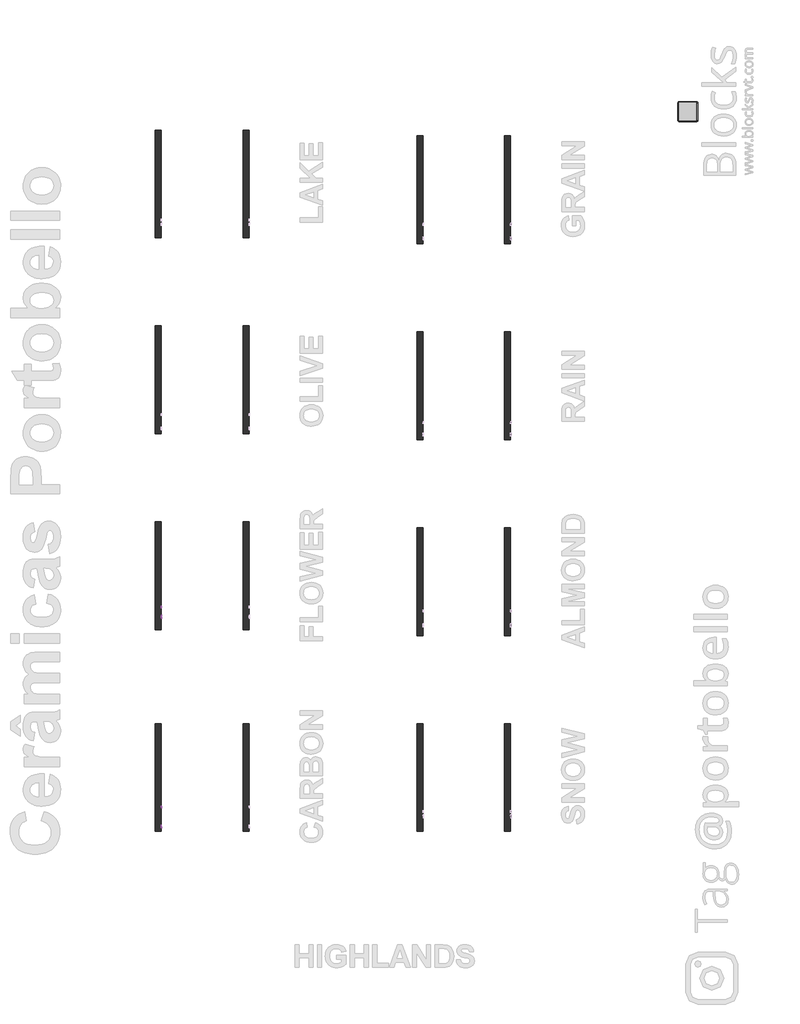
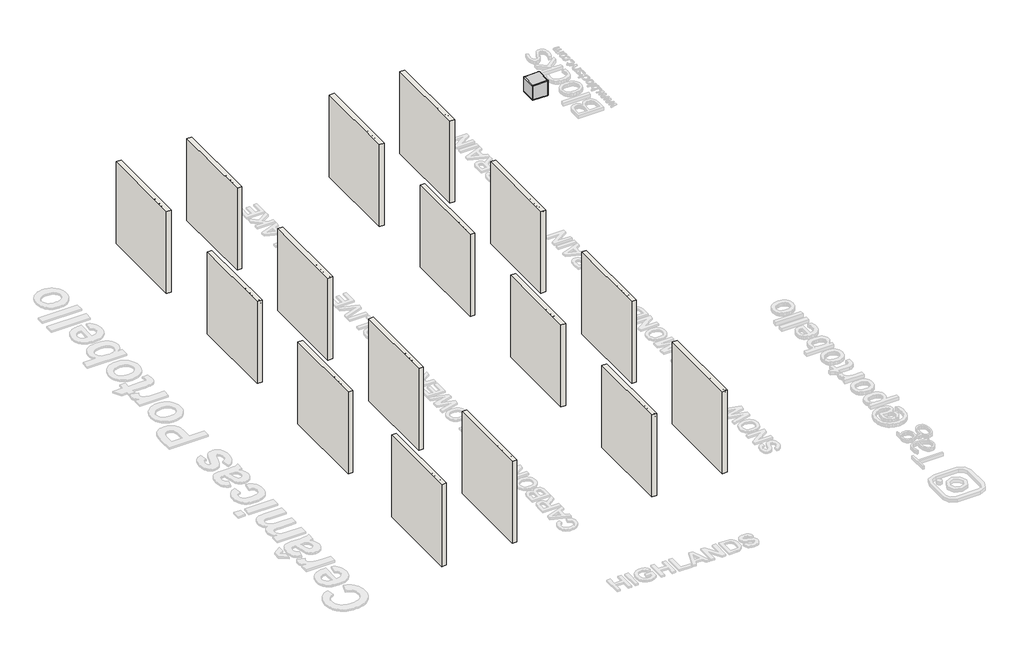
# One storey, part 1 of 10: 16 walls, 4 proxies, 1 furniture element.
"""IFC4 building model written with IfcOpenShell, lengths in millimetres."""

from ifc_helpers import new_model, si_unit, frame, origin, origin_with_axes, place, context, project, spatial, polyline, outline, extrude, transform, mapped, element, save
from components import branco_22256ad2

model = new_model("IFC4")

# Units and contexts
model_context = context("Model", 3, world=origin())
ifc_project = project(units=[si_unit("LENGTHUNIT", "METRE", prefix="MILLI")], contexts=[model_context])

# Site, building, storey
site = spatial("IfcSite", under=ifc_project)
building = spatial("IfcBuilding", under=site)
storey = spatial("IfcBuildingStorey", under=building, Name="PORTOBELLO - SHOWROOM", Elevation=0.0)

# Proxies
placement = place(None, origin())
element("IfcBuildingElementProxy", 1, Name="10mm Arial", ObjectType="10mm Arial", at=placement, inside=storey, context=model_context, shape_type="SweptSolid", body=[
    extrude(outline(polyline([(-4161.6101893, 2518.4745677), (-4161.6101893, 2618.9308778), (-4094.1161059, 2618.9308778), (-4094.1161059, 2606.373839), (-4149.0531505, 2606.373839), (-4149.0531505, 2576.550872), (-4101.9642551, 2576.550872), (-4101.9642551, 2563.9938332), (-4149.0531505, 2563.9938332), (-4149.0531505, 2518.4745677), (-4161.6101893, 2518.4745677)])), frame((-32475.742133, 0.0, 0.0), z_axis=(1.0, 0.0, 0.0), x_axis=(0.0, 1.0, 0.0)), (0.0, 0.0, 1.0), 20.0),
    extrude(outline(polyline([(-32455.742133, -4065.8627687), (-32455.742133, -4078.4198074), (-32475.742133, -4078.4198074), (-32475.742133, -4065.8627687), (-32455.742133, -4065.8627687)])), frame((0.0, 0.0, 2518.4745677), z_axis=(0.0, 0.0, 1.0), x_axis=(1.0, 0.0, 0.0)), (0.0, 0.0, 1.0), 100.4563101),
    extrude(outline(polyline([(-4050.1664702, 2555.360869), (-4047.4502748, 2573.1479635), (-4039.3016886, 2585.64982), (-4029.2339847, 2591.7750552), (-4017.179718, 2593.8168003), (-4003.9880828, 2591.3305311), (-3993.4513293, 2583.8717237), (-3986.5443448, 2572.0289891), (-3984.2420167, 2556.3909386), (-3988.3132441, 2534.0482388), (-4000.1713071, 2521.4053609), (-4017.179718, 2516.9049378), (-4030.5307687, 2519.3820099), (-4041.0552594, 2526.8132262), (-4047.8886675, 2538.9042811), (-4050.1664702, 2555.360869)]), holes=[polyline([(-4037.6094314, 2555.3853945), (-4036.1562975, 2544.0209065), (-4031.7968959, 2535.924437), (-4025.2363337, 2531.0775917), (-4017.179718, 2529.4619766), (-4009.1598905, 2531.0867887), (-4002.611591, 2535.9612252), (-3998.2521893, 2544.1649937), (-3996.7990554, 2555.777802), (-3998.2613864, 2566.8111961), (-4002.6483792, 2574.7973011), (-4009.2058757, 2579.6441464), (-4017.179718, 2581.2597615), (-4025.2363337, 2579.6502778), (-4031.7968959, 2574.8218266), (-4036.1562975, 2566.7437511), (-4037.6094314, 2555.3853945)])]), frame((-32475.742133, 0.0, 0.0), z_axis=(1.0, 0.0, 0.0), x_axis=(0.0, 1.0, 0.0)), (0.0, 0.0, 1.0), 20.0),
    extrude(outline(polyline([(-3957.8771403, 2518.4745677), (-3980.317942, 2592.2471704), (-3967.270394, 2592.2471704), (-3954.5416769, 2549.204977), (-3950.7402296, 2533.8275096), (-3947.6254954, 2548.6408913), (-3937.4964778, 2592.2471704), (-3922.5359433, 2592.2471704), (-3912.4559767, 2548.7635186), (-3909.684599, 2535.3480885), (-3905.7114734, 2549.4992826), (-3892.9582309, 2592.2471704), (-3879.8616319, 2592.2471704), (-3902.4741119, 2518.4745677), (-3917.6553755, 2518.4745677), (-3927.2938838, 2561.7374903), (-3930.089787, 2575.2264968), (-3942.5241984, 2518.4745677), (-3957.8771403, 2518.4745677)])), frame((-32475.742133, 0.0, 0.0), z_axis=(1.0, 0.0, 0.0), x_axis=(0.0, 1.0, 0.0)), (0.0, 0.0, 1.0), 20.0),
    extrude(outline(polyline([(-3819.5780356, 2540.4493855), (-3807.2662515, 2538.8797557), (-3811.7022952, 2529.602998), (-3818.780958, 2522.6684224), (-3828.3428242, 2518.345809), (-3840.2284783, 2516.9049378), (-3854.9621522, 2519.391207), (-3866.299049, 2526.8500144), (-3873.5279302, 2538.7969822), (-3875.9375573, 2554.7477324), (-3873.5034047, 2571.2349771), (-3866.2009471, 2583.5651553), (-3855.0173345, 2591.253889), (-3840.9397168, 2593.8168003), (-3827.3004918, 2591.2600204), (-3816.4019877, 2583.5896808), (-3809.25588, 2571.2840281), (-3806.8738441, 2554.8213088), (-3806.9474205, 2551.4367944), (-3863.3805185, 2551.4367944), (-3861.2069491, 2542.0374095), (-3856.1577687, 2535.1273593), (-3848.8706395, 2530.8783223), (-3839.9832236, 2529.4619766), (-3827.6714395, 2532.0862015), (-3819.5780356, 2540.4493855)]), holes=[polyline([(-3863.3805185, 2563.9938332), (-3819.4308828, 2563.9938332), (-3824.4586034, 2575.3736496), (-3831.7794551, 2579.7882335), (-3840.9887677, 2581.2597615), (-3856.4520743, 2576.5631347), (-3861.3173137, 2571.0724959), (-3863.3805185, 2563.9938332)])]), frame((-32475.742133, 0.0, 0.0), z_axis=(1.0, 0.0, 0.0), x_axis=(0.0, 1.0, 0.0)), (0.0, 0.0, 1.0), 20.0),
    extrude(outline(polyline([(-3794.3168053, 2518.4745677), (-3794.3168053, 2592.2471704), (-3783.3293964, 2592.2471704), (-3783.3293964, 2581.3333379), (-3775.5302981, 2591.3887791), (-3767.6821488, 2593.8168003), (-3755.0760591, 2589.9417766), (-3759.2699139, 2578.6845875), (-3768.0990818, 2581.2597615), (-3775.1992043, 2578.7826894), (-3779.7241528, 2571.9155588), (-3781.7597665, 2557.24933), (-3781.7597665, 2518.4745677), (-3794.3168053, 2518.4745677)])), frame((-32475.742133, 0.0, 0.0), z_axis=(1.0, 0.0, 0.0), x_axis=(0.0, 1.0, 0.0)), (0.0, 0.0, 1.0), 20.0),
])
element("IfcBuildingElementProxy", 2, Name="10mm Arial", ObjectType="10mm Arial", at=placement, inside=storey, context=model_context, shape_type="SweptSolid", body=[
    extrude(outline(polyline([(-9137.3091823, 2554.1836467), (-9124.7521435, 2550.9462851), (-9130.5462849, 2536.3137787), (-9139.6391016, 2525.6237411), (-9151.5830037, 2519.0846386), (-9165.9304015, 2516.9049378), (-9180.4954628, 2518.5542754), (-9192.0622859, 2523.5022883), (-9200.928242, 2531.5772981), (-9207.3907024, 2542.6076265), (-9212.6514149, 2569.4630122), (-9211.1645585, 2584.110847), (-9206.7039893, 2596.7598562), (-9199.5026993, 2607.0084355), (-9189.7936803, 2614.4549802), (-9178.2789738, 2618.9891258), (-9165.6606214, 2620.5005077), (-9151.8926377, 2618.5446017), (-9140.5097556, 2612.6768839), (-9131.8675944, 2603.2591048), (-9126.3217734, 2590.6530151), (-9138.8788121, 2587.6609082), (-9149.179508, 2603.0996893), (-9166.1511307, 2607.9434689), (-9185.7960293, 2602.5723918), (-9196.8938028, 2588.1514175), (-9200.0943761, 2569.4875377), (-9196.3051916, 2547.8560763), (-9184.5084423, 2534.0359761), (-9167.1812003, 2529.4619766), (-9156.6996291, 2531.0193437), (-9147.9654974, 2535.691445), (-9141.3712127, 2543.4292297), (-9137.3091823, 2554.1836467)])), frame((-32475.742133, 0.0, 0.0), z_axis=(1.0, 0.0, 0.0), x_axis=(0.0, 1.0, 0.0)), (0.0, 0.0, 1.0), 20.0),
    extrude(outline(polyline([(-9061.9669497, 2527.8923467), (-9074.1438437, 2519.3820099), (-9087.596062, 2516.9049378), (-9098.0898959, 2518.3948599), (-9105.8307462, 2522.8646261), (-9110.6040151, 2529.6520489), (-9112.1951048, 2538.0949407), (-9109.7916091, 2548.0277546), (-9103.4763015, 2555.2382417), (-9094.6839218, 2559.3585201), (-9083.8191402, 2561.246981), (-9062.0405261, 2565.563463), (-9061.9669497, 2568.3593662), (-9065.4250404, 2577.6299925), (-9079.3064544, 2581.2597615), (-9092.010646, 2578.8440031), (-9098.0684361, 2570.2723526), (-9110.6254749, 2571.8419824), (-9105.1930841, 2584.1047156), (-9094.2547261, 2591.2906772), (-9077.6877736, 2593.8168003), (-9062.4697217, 2591.5849828), (-9053.8735458, 2585.9809138), (-9050.0230476, 2577.4583142), (-9049.4099109, 2566.4709053), (-9049.4099109, 2550.8481832), (-9048.7722488, 2529.0327809), (-9046.2706512, 2518.4745677), (-9058.82769, 2518.4745677), (-9061.9669497, 2527.8923467)]), holes=[polyline([(-9061.9669497, 2553.0064243), (-9082.2249849, 2549.1559261), (-9093.0284528, 2547.1203124), (-9097.9212833, 2543.8093744), (-9099.638066, 2538.9778575), (-9095.8979324, 2532.1843033), (-9084.9227862, 2529.4619766), (-9072.2185946, 2532.4663462), (-9064.0270889, 2539.738147), (-9062.0405261, 2549.4502317), (-9061.9669497, 2553.0064243)])]), frame((-32475.742133, 0.0, 0.0), z_axis=(1.0, 0.0, 0.0), x_axis=(0.0, 1.0, 0.0)), (0.0, 0.0, 1.0), 20.0),
    extrude(outline(polyline([(-9032.1439826, 2518.4745677), (-9032.1439826, 2592.2471704), (-9021.1565737, 2592.2471704), (-9021.1565737, 2581.3333379), (-9013.3574754, 2591.3887791), (-9005.5093262, 2593.8168003), (-8992.9032364, 2589.9417766), (-8997.0970912, 2578.6845875), (-9005.9262591, 2581.2597615), (-9013.0263816, 2578.7826894), (-9017.5513301, 2571.9155588), (-9019.5869438, 2557.24933), (-9019.5869438, 2518.4745677), (-9032.1439826, 2518.4745677)])), frame((-32475.742133, 0.0, 0.0), z_axis=(1.0, 0.0, 0.0), x_axis=(0.0, 1.0, 0.0)), (0.0, 0.0, 1.0), 20.0),
    extrude(outline(polyline([(-8972.4980485, 2518.4745677), (-8985.0550872, 2518.4745677), (-8985.0550872, 2618.9308778), (-8972.4980485, 2618.9308778), (-8972.4980485, 2581.6766944), (-8963.7056688, 2590.7817738), (-8952.7795735, 2593.8168003), (-8940.1980093, 2591.0822108), (-8930.4368737, 2583.3934771), (-8924.4403971, 2571.4373122), (-8922.2698934, 2556.464515), (-8924.5170392, 2539.7013588), (-8931.2584768, 2527.2301591), (-8941.1514368, 2519.4862431), (-8952.8531499, 2516.9049378), (-8964.0183685, 2520.2342699), (-8972.4980485, 2530.222266), (-8972.4980485, 2518.4745677)]), holes=[polyline([(-8972.4980485, 2555.8759038), (-8969.0644832, 2538.3156699), (-8962.4855268, 2531.6753999), (-8953.9322704, 2529.4619766), (-8946.6849951, 2531.0929201), (-8940.4923149, 2535.9857506), (-8936.2432778, 2544.1098114), (-8934.8269321, 2555.4344454), (-8936.1850298, 2566.9246264), (-8940.2593229, 2574.9567167), (-8946.2588651, 2579.6840003), (-8953.3927102, 2581.2597615), (-8960.6399855, 2579.628818), (-8966.8326657, 2574.7359875), (-8971.0817028, 2566.7590795), (-8972.4980485, 2555.8759038)])]), frame((-32475.742133, 0.0, 0.0), z_axis=(1.0, 0.0, 0.0), x_axis=(0.0, 1.0, 0.0)), (0.0, 0.0, 1.0), 20.0),
    extrude(outline(polyline([(-8911.2824845, 2555.360869), (-8908.5662891, 2573.1479635), (-8900.4177029, 2585.64982), (-8890.3499989, 2591.7750552), (-8878.2957322, 2593.8168003), (-8865.104097, 2591.3305311), (-8854.5673435, 2583.8717237), (-8847.6603591, 2572.0289891), (-8845.3580309, 2556.3909386), (-8849.4292583, 2534.0482388), (-8861.2873213, 2521.4053609), (-8878.2957322, 2516.9049378), (-8891.646783, 2519.3820099), (-8902.1712737, 2526.8132262), (-8909.0046818, 2538.9042811), (-8911.2824845, 2555.360869)]), holes=[polyline([(-8898.7254457, 2555.3853945), (-8897.2723118, 2544.0209065), (-8892.9129102, 2535.924437), (-8886.3523479, 2531.0775917), (-8878.2957322, 2529.4619766), (-8870.2759047, 2531.0867887), (-8863.7276052, 2535.9612252), (-8859.3682036, 2544.1649937), (-8857.9150697, 2555.777802), (-8859.3774006, 2566.8111961), (-8863.7643934, 2574.7973011), (-8870.32189, 2579.6441464), (-8878.2957322, 2581.2597615), (-8886.3523479, 2579.6502778), (-8892.9129102, 2574.8218266), (-8897.2723118, 2566.7437511), (-8898.7254457, 2555.3853945)])]), frame((-32475.742133, 0.0, 0.0), z_axis=(1.0, 0.0, 0.0), x_axis=(0.0, 1.0, 0.0)), (0.0, 0.0, 1.0), 20.0),
    extrude(outline(polyline([(-8831.2313623, 2518.4745677), (-8831.2313623, 2592.2471704), (-8818.6743235, 2592.2471704), (-8818.6743235, 2581.9464746), (-8809.0726035, 2590.8492188), (-8795.9637417, 2593.8168003), (-8784.1056787, 2591.4255673), (-8776.0122748, 2585.1470479), (-8772.2476157, 2575.9132098), (-8771.5854282, 2563.773104), (-8771.5854282, 2518.4745677), (-8784.1424669, 2518.4745677), (-8784.1424669, 2562.0808468), (-8785.5894694, 2573.1908831), (-8790.7030292, 2579.0647323), (-8799.3237306, 2581.2597615), (-8812.9476271, 2576.3301428), (-8817.2426494, 2569.1871007), (-8818.6743235, 2557.6172119), (-8818.6743235, 2518.4745677), (-8831.2313623, 2518.4745677)])), frame((-32475.742133, 0.0, 0.0), z_axis=(1.0, 0.0, 0.0), x_axis=(0.0, 1.0, 0.0)), (0.0, 0.0, 1.0), 20.0),
])
element("IfcBuildingElementProxy", 3, Name="10mm Arial Narrow", ObjectType="10mm Arial Narrow", at=placement, inside=storey, context=model_context, shape_type="SweptSolid", body=[
    extrude(outline(polyline([(-3709.2962896, 2518.4745677), (-3709.2962896, 2619.1931714), (-3677.999405, 2619.1931714), (-3661.7037034, 2617.3148507), (-3650.2307173, 2607.8344075), (-3645.9410389, 2590.8152987), (-3647.7273473, 2578.7394731), (-3653.0862725, 2569.1130794), (-3662.8300613, 2562.811821), (-3677.7709605, 2560.7114015), (-3699.549328, 2560.7114015), (-3699.549328, 2518.4745677), (-3709.2962896, 2518.4745677)]), holes=[polyline([(-3699.549328, 2572.0828568), (-3676.577973, 2572.0828568), (-3660.7137776, 2576.613671), (-3655.6880005, 2590.2822617), (-3658.162815, 2600.4480381), (-3664.1404439, 2606.247988), (-3676.8064175, 2607.8217162), (-3699.549328, 2607.8217162), (-3699.549328, 2572.0828568)])]), frame((-32475.742133, 0.0, 0.0), z_axis=(1.0, 0.0, 0.0), x_axis=(0.0, 1.0, 0.0)), (0.0, 0.0, 1.0), 20.0),
    extrude(outline(polyline([(-3637.8185708, 2555.0256739), (-3635.864102, 2571.6164494), (-3630.0006954, 2583.5685342), (-3621.1421286, 2590.7930888), (-3610.2021795, 2593.2012737), (-3599.3891439, 2590.7930888), (-3590.5051945, 2583.5685342), (-3584.5656397, 2571.8068198), (-3582.5857881, 2555.7871552), (-3584.5307385, 2538.6252687), (-3590.3655896, 2526.4828135), (-3599.2146378, 2519.2582589), (-3610.2021795, 2516.8500741), (-3621.0628077, 2519.2646046), (-3629.9372386, 2526.5081962), (-3635.8482378, 2538.4666267), (-3637.8185708, 2555.0256739)]), holes=[polyline([(-3628.0716092, 2555.0510566), (-3626.7675723, 2542.4993052), (-3622.8554617, 2533.6280471), (-3617.014265, 2528.3547886), (-3609.9229697, 2526.5970357), (-3603.2028965, 2528.3706528), (-3597.5108232, 2533.6915039), (-3593.6272681, 2542.5786262), (-3592.3327498, 2555.0510566), (-3593.6367867, 2567.5647339), (-3597.5488972, 2576.4233006), (-3603.390094, 2581.6965592), (-3610.4813893, 2583.454312), (-3617.2490551, 2581.6870407), (-3622.9316099, 2576.3852265), (-3626.7866094, 2567.5171413), (-3628.0716092, 2555.0510566)])]), frame((-32475.742133, 0.0, 0.0), z_axis=(1.0, 0.0, 0.0), x_axis=(0.0, 1.0, 0.0)), (0.0, 0.0, 1.0), 20.0),
    extrude(outline(polyline([(-3511.1080694, 2526.5970357), (-3509.4835757, 2516.8500741), (-3516.8445624, 2516.8500741), (-3525.1193267, 2518.9695306), (-3529.4343879, 2524.7694804), (-3530.6019927, 2539.4153056), (-3530.6019927, 2581.8298184), (-3538.7244607, 2581.8298184), (-3538.7244607, 2585.0788056), (-3540.3489543, 2580.2053248), (-3547.9130027, 2581.8298184), (-3553.9921624, 2579.5073002), (-3557.863026, 2573.0220171), (-3559.8428776, 2557.6147106), (-3559.8428776, 2518.4745677), (-3569.5898393, 2518.4745677), (-3569.5898393, 2591.5767801), (-3559.8428776, 2591.5767801), (-3559.8428776, 2581.8805838), (-3553.5987303, 2590.967595), (-3547.2022867, 2593.2012737), (-3538.7244607, 2591.5767801), (-3530.6019927, 2591.5767801), (-3530.6019927, 2607.8217162), (-3520.855031, 2615.9441842), (-3520.855031, 2591.5767801), (-3511.1080694, 2591.5767801), (-3511.1080694, 2581.8298184), (-3520.855031, 2581.8298184), (-3520.855031, 2537.1816269), (-3519.9920188, 2529.1860724), (-3515.3723651, 2526.5970357), (-3511.1080694, 2526.5970357)])), frame((-32475.742133, 0.0, 0.0), z_axis=(1.0, 0.0, 0.0), x_axis=(0.0, 1.0, 0.0)), (0.0, 0.0, 1.0), 20.0),
    extrude(outline(polyline([(-3504.6100949, 2555.0256739), (-3502.655626, 2571.6164494), (-3496.7922194, 2583.5685342), (-3487.9336527, 2590.7930888), (-3476.9937036, 2593.2012737), (-3466.180668, 2590.7930888), (-3457.2967186, 2583.5685342), (-3451.3571638, 2571.8068198), (-3449.3773122, 2555.7871552), (-3451.3222626, 2538.6252687), (-3457.1571136, 2526.4828135), (-3466.0061618, 2519.2582589), (-3476.9937036, 2516.8500741), (-3487.8543317, 2519.2646046), (-3496.7287626, 2526.5081962), (-3502.6397618, 2538.4666267), (-3504.6100949, 2555.0256739)]), holes=[polyline([(-3494.8631333, 2555.0510566), (-3493.5590964, 2542.4993052), (-3489.6469858, 2533.6280471), (-3483.8057891, 2528.3547886), (-3476.7144937, 2526.5970357), (-3469.9944206, 2528.3706528), (-3464.3023472, 2533.6915039), (-3460.4187922, 2542.5786262), (-3459.1242739, 2555.0510566), (-3460.4283107, 2567.5647339), (-3464.3404213, 2576.4233006), (-3470.1816181, 2581.6965592), (-3477.2729134, 2583.454312), (-3484.0405792, 2581.6870407), (-3489.723134, 2576.3852265), (-3493.5781334, 2567.5171413), (-3494.8631333, 2555.0510566)])]), frame((-32475.742133, 0.0, 0.0), z_axis=(1.0, 0.0, 0.0), x_axis=(0.0, 1.0, 0.0)), (0.0, 0.0, 1.0), 20.0),
    extrude(outline(polyline([(-3426.6344017, 2518.4745677), (-3436.3813633, 2518.4745677), (-3436.3813633, 2619.1931714), (-3426.6344017, 2619.1931714), (-3426.6344017, 2583.7842873), (-3419.235341, 2590.8660641), (-3410.0341076, 2593.2012737), (-3397.152381, 2589.0004347), (-3387.8749995, 2576.2710043), (-3384.3975679, 2555.5840935), (-3386.3298269, 2539.1297501), (-3392.1266039, 2526.927011), (-3400.4997262, 2519.3693083), (-3410.1610212, 2516.8500741), (-3419.5018594, 2519.4644935), (-3426.6344017, 2527.2316035), (-3426.6344017, 2518.4745677)]), holes=[polyline([(-3426.6344017, 2555.5840935), (-3424.5530193, 2538.3365403), (-3418.6642299, 2529.6048872), (-3410.2117866, 2526.5970357), (-3404.269059, 2528.3865169), (-3399.0307017, 2533.7549607), (-3394.1445295, 2555.1779701), (-3398.8530227, 2576.613671), (-3404.0977257, 2581.7441518), (-3410.4148483, 2583.454312), (-3416.3924771, 2581.6648308), (-3421.6847727, 2576.2963871), (-3426.6344017, 2555.5840935)])]), frame((-32475.742133, 0.0, 0.0), z_axis=(1.0, 0.0, 0.0), x_axis=(0.0, 1.0, 0.0)), (0.0, 0.0, 1.0), 20.0),
    extrude(outline(polyline([(-3332.4137724, 2541.2174782), (-3322.6668107, 2539.5929846), (-3326.3663411, 2529.706418), (-3332.185328, 2522.5865671), (-3339.8889812, 2518.2841973), (-3349.2425109, 2516.8500741), (-3360.8360649, 2519.2646046), (-3369.9801871, 2526.5081962), (-3375.9197418, 2538.3143304), (-3377.8995934, 2554.4164888), (-3375.9102233, 2571.0834124), (-3369.942113, 2583.2639417), (-3360.9280772, 2590.7169407), (-3349.8009305, 2593.2012737), (-3339.1179813, 2590.8026073), (-3330.370464, 2583.6066083), (-3324.5356129, 2571.8671037), (-3322.5906626, 2555.8379207), (-3322.6668107, 2552.5889335), (-3368.1526318, 2552.5889335), (-3362.1496202, 2533.1457756), (-3356.219584, 2528.2342207), (-3349.1155973, 2526.5970357), (-3338.9371295, 2530.2521463), (-3332.4137724, 2541.2174782)]), holes=[polyline([(-3367.4926812, 2562.3358951), (-3332.4137724, 2562.3358951), (-3336.6780681, 2576.6009796), (-3342.5034006, 2581.7409789), (-3349.7247824, 2583.454312), (-3361.9338672, 2577.7432017), (-3367.4926812, 2562.3358951)])]), frame((-32475.742133, 0.0, 0.0), z_axis=(1.0, 0.0, 0.0), x_axis=(0.0, 1.0, 0.0)), (0.0, 0.0, 1.0), 20.0),
    extrude(outline(polyline([(-32455.742133, -3299.9239002), (-32455.742133, -3309.6708618), (-32475.742133, -3309.6708618), (-32475.742133, -3299.9239002), (-32455.742133, -3299.9239002)])), frame((0.0, 0.0, 2518.4745677), z_axis=(0.0, 0.0, 1.0), x_axis=(1.0, 0.0, 0.0)), (0.0, 0.0, 1.0), 100.7186038),
    extrude(outline(polyline([(-32455.742133, -3273.9320025), (-32455.742133, -3283.6789641), (-32475.742133, -3283.6789641), (-32475.742133, -3273.9320025), (-32455.742133, -3273.9320025)])), frame((0.0, 0.0, 2518.4745677), z_axis=(0.0, 0.0, 1.0), x_axis=(1.0, 0.0, 0.0)), (0.0, 0.0, 1.0), 100.7186038),
    extrude(outline(polyline([(-3262.5605472, 2555.0256739), (-3260.6060783, 2571.6164494), (-3254.7426717, 2583.5685342), (-3245.884105, 2590.7930888), (-3234.9441558, 2593.2012737), (-3224.1311203, 2590.7930888), (-3215.2471708, 2583.5685342), (-3209.3076161, 2571.8068198), (-3207.3277645, 2555.7871552), (-3209.2727148, 2538.6252687), (-3215.1075659, 2526.4828135), (-3223.9566141, 2519.2582589), (-3234.9441558, 2516.8500741), (-3245.804784, 2519.2646046), (-3254.6792149, 2526.5081962), (-3260.5902141, 2538.4666267), (-3262.5605472, 2555.0256739)]), holes=[polyline([(-3252.8135855, 2555.0510566), (-3251.5095487, 2542.4993052), (-3247.5974381, 2533.6280471), (-3241.7562413, 2528.3547886), (-3234.664946, 2526.5970357), (-3227.9448728, 2528.3706528), (-3222.2527995, 2533.6915039), (-3218.3692445, 2542.5786262), (-3217.0747261, 2555.0510566), (-3218.378763, 2567.5647339), (-3222.2908736, 2576.4233006), (-3228.1320703, 2581.6965592), (-3235.2233657, 2583.454312), (-3241.9910314, 2581.6870407), (-3247.6735862, 2576.3852265), (-3251.5285857, 2567.5171413), (-3252.8135855, 2555.0510566)])]), frame((-32475.742133, 0.0, 0.0), z_axis=(1.0, 0.0, 0.0), x_axis=(0.0, 1.0, 0.0)), (0.0, 0.0, 1.0), 20.0),
])
element("IfcBuildingElementProxy", 4, Name="10mm Arial Narrow", ObjectType="10mm Arial Narrow", at=placement, inside=storey, context=model_context, shape_type="SweptSolid", body=[
    extrude(outline(polyline([(-8720.6286257, 2518.4745677), (-8720.6286257, 2619.1931714), (-8689.3317411, 2619.1931714), (-8673.0360395, 2617.3148507), (-8661.5630534, 2607.8344075), (-8657.273375, 2590.8152987), (-8659.0596834, 2578.7394731), (-8664.4186086, 2569.1130794), (-8674.1623974, 2562.811821), (-8689.1032966, 2560.7114015), (-8710.8816641, 2560.7114015), (-8710.8816641, 2518.4745677), (-8720.6286257, 2518.4745677)]), holes=[polyline([(-8710.8816641, 2572.0828568), (-8687.9103091, 2572.0828568), (-8672.0461137, 2576.613671), (-8667.0203366, 2590.2822617), (-8669.4951511, 2600.4480381), (-8675.47278, 2606.247988), (-8688.1387536, 2607.8217162), (-8710.8816641, 2607.8217162), (-8710.8816641, 2572.0828568)])]), frame((-32475.742133, 0.0, 0.0), z_axis=(1.0, 0.0, 0.0), x_axis=(0.0, 1.0, 0.0)), (0.0, 0.0, 1.0), 20.0),
    extrude(outline(polyline([(-8649.1509069, 2555.0256739), (-8647.1964381, 2571.6164494), (-8641.3330315, 2583.5685342), (-8632.4744647, 2590.7930888), (-8621.5345156, 2593.2012737), (-8610.72148, 2590.7930888), (-8601.8375306, 2583.5685342), (-8595.8979758, 2571.8068198), (-8593.9181242, 2555.7871552), (-8595.8630746, 2538.6252687), (-8601.6979257, 2526.4828135), (-8610.5469739, 2519.2582589), (-8621.5345156, 2516.8500741), (-8632.3951438, 2519.2646046), (-8641.2695747, 2526.5081962), (-8647.1805739, 2538.4666267), (-8649.1509069, 2555.0256739)]), holes=[polyline([(-8639.4039453, 2555.0510566), (-8638.0999084, 2542.4993052), (-8634.1877978, 2533.6280471), (-8628.3466011, 2528.3547886), (-8621.2553058, 2526.5970357), (-8614.5352326, 2528.3706528), (-8608.8431593, 2533.6915039), (-8604.9596042, 2542.5786262), (-8603.6650859, 2555.0510566), (-8604.9691228, 2567.5647339), (-8608.8812333, 2576.4233006), (-8614.7224301, 2581.6965592), (-8621.8137254, 2583.454312), (-8628.5813912, 2581.6870407), (-8634.263946, 2576.3852265), (-8638.1189455, 2567.5171413), (-8639.4039453, 2555.0510566)])]), frame((-32475.742133, 0.0, 0.0), z_axis=(1.0, 0.0, 0.0), x_axis=(0.0, 1.0, 0.0)), (0.0, 0.0, 1.0), 20.0),
    extrude(outline(polyline([(-8522.4404054, 2526.5970357), (-8520.8159118, 2516.8500741), (-8528.1768985, 2516.8500741), (-8536.4516628, 2518.9695306), (-8540.766724, 2524.7694804), (-8541.9343288, 2539.4153056), (-8541.9343288, 2581.8298184), (-8550.0567968, 2581.8298184), (-8550.0567968, 2585.0788056), (-8551.6812904, 2580.2053248), (-8559.2453388, 2581.8298184), (-8565.3244985, 2579.5073002), (-8569.1953621, 2573.0220171), (-8571.1752137, 2557.6147106), (-8571.1752137, 2518.4745677), (-8580.9221754, 2518.4745677), (-8580.9221754, 2591.5767801), (-8571.1752137, 2591.5767801), (-8571.1752137, 2581.8805838), (-8564.9310664, 2590.967595), (-8558.5346228, 2593.2012737), (-8550.0567968, 2591.5767801), (-8541.9343288, 2591.5767801), (-8541.9343288, 2607.8217162), (-8532.1873671, 2615.9441842), (-8532.1873671, 2591.5767801), (-8522.4404054, 2591.5767801), (-8522.4404054, 2581.8298184), (-8532.1873671, 2581.8298184), (-8532.1873671, 2537.1816269), (-8531.3243549, 2529.1860724), (-8526.7047012, 2526.5970357), (-8522.4404054, 2526.5970357)])), frame((-32475.742133, 0.0, 0.0), z_axis=(1.0, 0.0, 0.0), x_axis=(0.0, 1.0, 0.0)), (0.0, 0.0, 1.0), 20.0),
    extrude(outline(polyline([(-8515.942431, 2555.0256739), (-8513.9879621, 2571.6164494), (-8508.1245555, 2583.5685342), (-8499.2659888, 2590.7930888), (-8488.3260397, 2593.2012737), (-8477.5130041, 2590.7930888), (-8468.6290547, 2583.5685342), (-8462.6894999, 2571.8068198), (-8460.7096483, 2555.7871552), (-8462.6545987, 2538.6252687), (-8468.4894497, 2526.4828135), (-8477.3384979, 2519.2582589), (-8488.3260397, 2516.8500741), (-8499.1866678, 2519.2646046), (-8508.0610987, 2526.5081962), (-8513.9720979, 2538.4666267), (-8515.942431, 2555.0256739)]), holes=[polyline([(-8506.1954694, 2555.0510566), (-8504.8914325, 2542.4993052), (-8500.9793219, 2533.6280471), (-8495.1381252, 2528.3547886), (-8488.0468298, 2526.5970357), (-8481.3267567, 2528.3706528), (-8475.6346833, 2533.6915039), (-8471.7511283, 2542.5786262), (-8470.45661, 2555.0510566), (-8471.7606468, 2567.5647339), (-8475.6727574, 2576.4233006), (-8481.5139542, 2581.6965592), (-8488.6052495, 2583.454312), (-8495.3729153, 2581.6870407), (-8501.05547, 2576.3852265), (-8504.9104695, 2567.5171413), (-8506.1954694, 2555.0510566)])]), frame((-32475.742133, 0.0, 0.0), z_axis=(1.0, 0.0, 0.0), x_axis=(0.0, 1.0, 0.0)), (0.0, 0.0, 1.0), 20.0),
    extrude(outline(polyline([(-8437.9667378, 2518.4745677), (-8447.7136994, 2518.4745677), (-8447.7136994, 2619.1931714), (-8437.9667378, 2619.1931714), (-8437.9667378, 2583.7842873), (-8430.567677, 2590.8660641), (-8421.3664437, 2593.2012737), (-8408.4847171, 2589.0004347), (-8399.2073356, 2576.2710043), (-8395.729904, 2555.5840935), (-8397.662163, 2539.1297501), (-8403.45894, 2526.927011), (-8411.8320623, 2519.3693083), (-8421.4933573, 2516.8500741), (-8430.8341955, 2519.4644935), (-8437.9667378, 2527.2316035), (-8437.9667378, 2518.4745677)]), holes=[polyline([(-8437.9667378, 2555.5840935), (-8435.8853553, 2538.3365403), (-8429.996566, 2529.6048872), (-8421.5441227, 2526.5970357), (-8415.6013951, 2528.3865169), (-8410.3630378, 2533.7549607), (-8405.4768656, 2555.1779701), (-8410.1853588, 2576.613671), (-8415.4300618, 2581.7441518), (-8421.7471844, 2583.454312), (-8427.7248132, 2581.6648308), (-8433.0171088, 2576.2963871), (-8437.9667378, 2555.5840935)])]), frame((-32475.742133, 0.0, 0.0), z_axis=(1.0, 0.0, 0.0), x_axis=(0.0, 1.0, 0.0)), (0.0, 0.0, 1.0), 20.0),
    extrude(outline(polyline([(-8343.7461085, 2541.2174782), (-8333.9991468, 2539.5929846), (-8337.6986772, 2529.706418), (-8343.5176641, 2522.5865671), (-8351.2213173, 2518.2841973), (-8360.5748469, 2516.8500741), (-8372.1684009, 2519.2646046), (-8381.3125232, 2526.5081962), (-8387.2520779, 2538.3143304), (-8389.2319295, 2554.4164888), (-8387.2425594, 2571.0834124), (-8381.2744491, 2583.2639417), (-8372.2604133, 2590.7169407), (-8361.1332666, 2593.2012737), (-8350.4503174, 2590.8026073), (-8341.7028001, 2583.6066083), (-8335.867949, 2571.8671037), (-8333.9229987, 2555.8379207), (-8333.9991468, 2552.5889335), (-8379.4849679, 2552.5889335), (-8373.4819563, 2533.1457756), (-8367.5519201, 2528.2342207), (-8360.4479334, 2526.5970357), (-8350.2694656, 2530.2521463), (-8343.7461085, 2541.2174782)]), holes=[polyline([(-8378.8250173, 2562.3358951), (-8343.7461085, 2562.3358951), (-8348.0104042, 2576.6009796), (-8353.8357367, 2581.7409789), (-8361.0571185, 2583.454312), (-8373.2662033, 2577.7432017), (-8378.8250173, 2562.3358951)])]), frame((-32475.742133, 0.0, 0.0), z_axis=(1.0, 0.0, 0.0), x_axis=(0.0, 1.0, 0.0)), (0.0, 0.0, 1.0), 20.0),
    extrude(outline(polyline([(-32455.742133, -8311.2562363), (-32455.742133, -8321.0031979), (-32475.742133, -8321.0031979), (-32475.742133, -8311.2562363), (-32455.742133, -8311.2562363)])), frame((0.0, 0.0, 2518.4745677), z_axis=(0.0, 0.0, 1.0), x_axis=(1.0, 0.0, 0.0)), (0.0, 0.0, 1.0), 100.7186038),
    extrude(outline(polyline([(-32455.742133, -8285.2643385), (-32455.742133, -8295.0113002), (-32475.742133, -8295.0113002), (-32475.742133, -8285.2643385), (-32455.742133, -8285.2643385)])), frame((0.0, 0.0, 2518.4745677), z_axis=(0.0, 0.0, 1.0), x_axis=(1.0, 0.0, 0.0)), (0.0, 0.0, 1.0), 100.7186038),
    extrude(outline(polyline([(-8273.8928833, 2555.0256739), (-8271.9384144, 2571.6164494), (-8266.0750078, 2583.5685342), (-8257.2164411, 2590.7930888), (-8246.2764919, 2593.2012737), (-8235.4634563, 2590.7930888), (-8226.5795069, 2583.5685342), (-8220.6399522, 2571.8068198), (-8218.6601006, 2555.7871552), (-8220.6050509, 2538.6252687), (-8226.439902, 2526.4828135), (-8235.2889502, 2519.2582589), (-8246.2764919, 2516.8500741), (-8257.1371201, 2519.2646046), (-8266.011551, 2526.5081962), (-8271.9225502, 2538.4666267), (-8273.8928833, 2555.0256739)]), holes=[polyline([(-8264.1459216, 2555.0510566), (-8262.8418848, 2542.4993052), (-8258.9297742, 2533.6280471), (-8253.0885774, 2528.3547886), (-8245.9972821, 2526.5970357), (-8239.2772089, 2528.3706528), (-8233.5851356, 2533.6915039), (-8229.7015806, 2542.5786262), (-8228.4070622, 2555.0510566), (-8229.7110991, 2567.5647339), (-8233.6232097, 2576.4233006), (-8239.4644064, 2581.6965592), (-8246.5557018, 2583.454312), (-8253.3233675, 2581.6870407), (-8259.0059223, 2576.3852265), (-8262.8609218, 2567.5171413), (-8264.1459216, 2555.0510566)])]), frame((-32475.742133, 0.0, 0.0), z_axis=(1.0, 0.0, 0.0), x_axis=(0.0, 1.0, 0.0)), (0.0, 0.0, 1.0), 20.0),
])

# Furniture
branco_shape = branco_22256ad2(model_context)
element("IfcFurniture", 5, ObjectType="Blks_Mob_Blocks Revit_Cubo : Branco", at=placement, inside=storey, context=model_context, shape_type="MappedRepresentation", body=[
    mapped(branco_shape, transform((-19287.4171007, 8711.6583301, 0.0), x_axis=(1.0, 0.0, 0.0), y_axis=(0.0, 1.0, 0.0), z_axis=(0.0, 0.0, 1.0))),
])

# Walls
element("IfcWall", 6, ObjectType="PORTOBELLO - HIGHLANDS - FLOWER - 7X24,4 - BR - BOLD - COMPOSIÇÃO 01", at=placement, inside=storey, context=model_context, shape_type="SweptSolid", body=[
    extrude(outline(polyline([(-30275.742133, -1551.2406298), (-30275.742133, -4251.2406298), (-30425.742133, -4251.2406298), (-30425.742133, -1551.2406298), (-30275.742133, -1551.2406298)])), origin_with_axes(), (0.0, 0.0, 1.0), 2700.0),
])
element("IfcWall", 7, ObjectType="PORTOBELLO - HIGHLANDS - SNOW - 7X24,4 - BR - BOLD - COMPOSIÇÃO 01", at=placement, inside=storey, context=model_context, shape_type="SweptSolid", body=[
    extrude(outline(polyline([(-23726.2609603, -6597.5729659), (-23726.2609603, -9297.5729659), (-23876.2609603, -9297.5729659), (-23876.2609603, -6597.5729659), (-23726.2609603, -6597.5729659)])), origin_with_axes(), (0.0, 0.0, 1.0), 2700.0),
])
element("IfcWall", 8, ObjectType="PORTOBELLO - HIGHLANDS - RAIN - 7X24,4 - BR - BOLD - COMPOSIÇÃO 01", at=placement, inside=storey, context=model_context, shape_type="SweptSolid", body=[
    extrude(outline(polyline([(-23726.2609603, 3202.3913659), (-23726.2609603, 502.3913659), (-23876.2609603, 502.3913659), (-23876.2609603, 3202.3913659), (-23726.2609603, 3202.3913659)])), origin_with_axes(), (0.0, 0.0, 1.0), 2700.0),
])
element("IfcWall", 9, ObjectType="PORTOBELLO - HIGHLANDS - ALMOND - 7X24,4 - BR - BOLD - COMPOSIÇÃO 01", at=placement, inside=storey, context=model_context, shape_type="SweptSolid", body=[
    extrude(outline(polyline([(-23726.2609603, -1697.5729659), (-23726.2609603, -4397.5729659), (-23876.2609603, -4397.5729659), (-23876.2609603, -1697.5729659), (-23726.2609603, -1697.5729659)])), origin_with_axes(), (0.0, 0.0, 1.0), 2700.0),
])
element("IfcWall", 10, ObjectType="PORTOBELLO - HIGHLANDS - GRAIN - 7X24,4 - BR - BOLD - COMPOSIÇÃO 01", at=placement, inside=storey, context=model_context, shape_type="SweptSolid", body=[
    extrude(outline(polyline([(-23726.2609603, 8102.4270341), (-23726.2609603, 5402.4270341), (-23876.2609603, 5402.4270341), (-23876.2609603, 8102.4270341), (-23726.2609603, 8102.4270341)])), origin_with_axes(), (0.0, 0.0, 1.0), 2700.0),
])
element("IfcWall", 11, ObjectType="PORTOBELLO - HIGHLANDS - CARBON - 7X24,4 - BR - BOLD - COMPOSIÇÃO 01", at=placement, inside=storey, context=model_context, shape_type="SweptSolid", body=[
    extrude(outline(polyline([(-30275.742133, -6597.5729659), (-30275.742133, -9297.5729659), (-30425.742133, -9297.5729659), (-30425.742133, -6597.5729659), (-30275.742133, -6597.5729659)])), origin_with_axes(), (0.0, 0.0, 1.0), 2700.0),
])
element("IfcWall", 12, ObjectType="PORTOBELLO - HIGHLANDS - OLIVE - 7X24,4 - BR - BOLD - COMPOSIÇÃO 01", at=placement, inside=storey, context=model_context, shape_type="SweptSolid", body=[
    extrude(outline(polyline([(-30275.742133, 3348.7593702), (-30275.742133, 648.7593702), (-30425.742133, 648.7593702), (-30425.742133, 3348.7593702), (-30275.742133, 3348.7593702)])), origin_with_axes(), (0.0, 0.0, 1.0), 2700.0),
])
element("IfcWall", 13, ObjectType="PORTOBELLO - HIGHLANDS - LAKE - 7X24,4 - BR - BOLD - COMPOSIÇÃO 01", at=placement, inside=storey, context=model_context, shape_type="SweptSolid", body=[
    extrude(outline(polyline([(-30275.742133, 8248.7593702), (-30275.742133, 5548.7593702), (-30425.742133, 5548.7593702), (-30425.742133, 8248.7593702), (-30275.742133, 8248.7593702)])), origin_with_axes(), (0.0, 0.0, 1.0), 2700.0),
])
element("IfcWall", 14, ObjectType="PORTOBELLO - HIGHLANDS - FLOWER - 7X24,4 - BR - BOLD - COMPOSIÇÃO 02", at=placement, inside=storey, context=model_context, shape_type="SweptSolid", body=[
    extrude(outline(polyline([(-32475.742133, -1551.2406298), (-32475.742133, -4251.2406298), (-32625.742133, -4251.2406298), (-32625.742133, -1551.2406298), (-32475.742133, -1551.2406298)])), origin_with_axes(), (0.0, 0.0, 1.0), 2700.0),
])
element("IfcWall", 15, ObjectType="PORTOBELLO - HIGHLANDS - SNOW - 7X24,4 - BR - BOLD - COMPOSIÇÃO 02", at=placement, inside=storey, context=model_context, shape_type="SweptSolid", body=[
    extrude(outline(polyline([(-25926.2609603, -6597.5729659), (-25926.2609603, -9297.5729659), (-26076.2609603, -9297.5729659), (-26076.2609603, -6597.5729659), (-25926.2609603, -6597.5729659)])), origin_with_axes(), (0.0, 0.0, 1.0), 2700.0),
])
element("IfcWall", 16, ObjectType="PORTOBELLO - HIGHLANDS - RAIN - 7X24,4 - BR - BOLD - COMPOSIÇÃO 02", at=placement, inside=storey, context=model_context, shape_type="SweptSolid", body=[
    extrude(outline(polyline([(-25926.2609603, 3202.3913659), (-25926.2609603, 502.3913659), (-26076.2609603, 502.3913659), (-26076.2609603, 3202.3913659), (-25926.2609603, 3202.3913659)])), origin_with_axes(), (0.0, 0.0, 1.0), 2700.0),
])
element("IfcWall", 17, ObjectType="PORTOBELLO - HIGHLANDS - ALMOND - 7X24,4 - BR - BOLD - COMPOSIÇÃO 02", at=placement, inside=storey, context=model_context, shape_type="SweptSolid", body=[
    extrude(outline(polyline([(-25926.2609603, -1697.5729659), (-25926.2609603, -4397.5729659), (-26076.2609603, -4397.5729659), (-26076.2609603, -1697.5729659), (-25926.2609603, -1697.5729659)])), origin_with_axes(), (0.0, 0.0, 1.0), 2700.0),
])
element("IfcWall", 18, ObjectType="PORTOBELLO - HIGHLANDS - GRAIN - 7X24,4 - BR - BOLD - COMPOSIÇÃO 02", at=placement, inside=storey, context=model_context, shape_type="SweptSolid", body=[
    extrude(outline(polyline([(-25926.2609603, 8102.4270341), (-25926.2609603, 5402.4270341), (-26076.2609603, 5402.4270341), (-26076.2609603, 8102.4270341), (-25926.2609603, 8102.4270341)])), origin_with_axes(), (0.0, 0.0, 1.0), 2700.0),
])
element("IfcWall", 19, ObjectType="PORTOBELLO - HIGHLANDS - CARBON - 7X24,4 - BR - BOLD - COMPOSIÇÃO 02", at=placement, inside=storey, context=model_context, shape_type="SweptSolid", body=[
    extrude(outline(polyline([(-32475.742133, -6597.5729659), (-32475.742133, -9297.5729659), (-32625.742133, -9297.5729659), (-32625.742133, -6597.5729659), (-32475.742133, -6597.5729659)])), origin_with_axes(), (0.0, 0.0, 1.0), 2700.0),
])
element("IfcWall", 20, ObjectType="PORTOBELLO - HIGHLANDS - OLIVE - 7X24,4 - BR - BOLD - COMPOSIÇÃO 02", at=placement, inside=storey, context=model_context, shape_type="SweptSolid", body=[
    extrude(outline(polyline([(-32475.742133, 3348.7593702), (-32475.742133, 648.7593702), (-32625.742133, 648.7593702), (-32625.742133, 3348.7593702), (-32475.742133, 3348.7593702)])), origin_with_axes(), (0.0, 0.0, 1.0), 2700.0),
])
element("IfcWall", 21, ObjectType="PORTOBELLO - HIGHLANDS - LAKE - 7X24,4 - BR - BOLD - COMPOSIÇÃO 02", at=placement, inside=storey, context=model_context, shape_type="SweptSolid", body=[
    extrude(outline(polyline([(-32475.742133, 8248.7593702), (-32475.742133, 5548.7593702), (-32625.742133, 5548.7593702), (-32625.742133, 8248.7593702), (-32475.742133, 8248.7593702)])), origin_with_axes(), (0.0, 0.0, 1.0), 2700.0),
])

save(model, "model.ifc")
